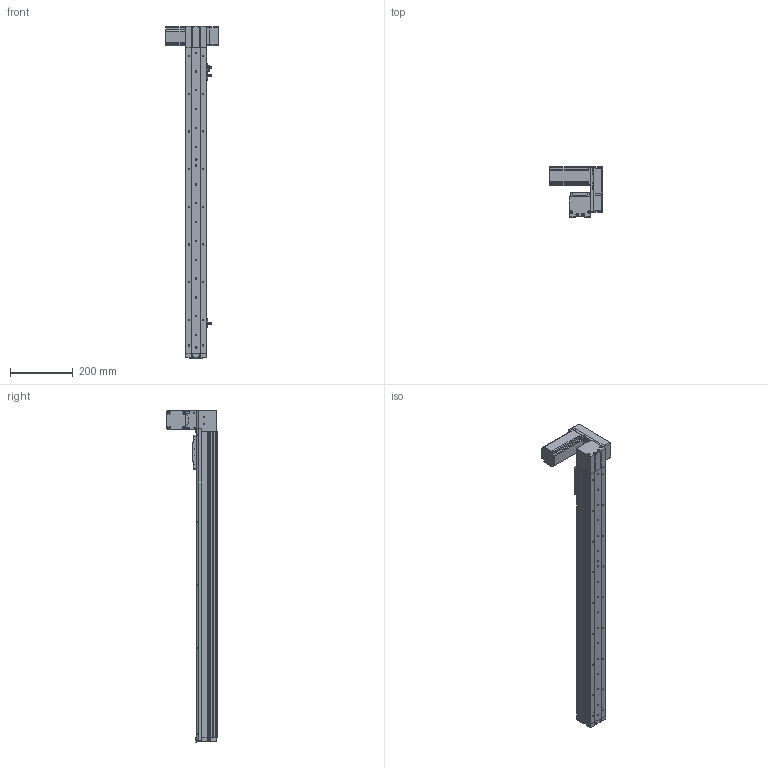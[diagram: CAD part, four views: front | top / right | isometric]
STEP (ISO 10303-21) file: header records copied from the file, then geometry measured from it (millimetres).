
FILE_DESCRIPTION (( 'STEP AP214' ), '1' );
FILE_NAME ('KSD68BS-S800-MLU-CR.STEP', '2019-08-27T08:11:31', ( '微软用户' ), ( '微软中国' ), 'SwSTEP 2.0', 'SolidWorks 2014', '' );
FILE_SCHEMA (( 'AUTOMOTIVE_DESIGN' ));
Length unit declared in the file: millimetre
Products named in the file (14): U倰嫖萇EEㄜSX672; 台达ECMA－C20604AS伺服电机（400W); KSD68BS 800行程盖板全封闭; KSD68BS 800行程底板全封闭; KSD68BS-S800-MLU-CR; 68宽单导轨全封闭丝杆传动安装板1防护罩; 68遵裔啣揤啣1; KSD68BS 800行程侧板全封闭; 68宽单导轨全封闭同步带端板; 68单导轨全封闭同步带电机座左; 68单导轨全封闭同步带安装板; 悵誘欶奻狟殏; 68宽马达安装板连板上折同步带; 感应片68宽全封闭
Assembly tree (17 placements, depth 2):
  KSD68BS-S800-MLU-CR
    KSD68BS 800行程底板全封闭
    台达ECMA－C20604AS伺服电机（400W)
    U倰嫖萇EEㄜSX672  x3
    感应片68宽全封闭
    68宽马达安装板连板上折同步带
    悵誘欶奻狟殏
    68单导轨全封闭同步带安装板
    68单导轨全封闭同步带电机座左
    68宽单导轨全封闭同步带端板
    KSD68BS 800行程侧板全封闭  x2
    68宽单导轨全封闭丝杆传动安装板1防护罩
    68遵裔啣揤啣1  x2
    KSD68BS 800行程盖板全封闭
Bounding box: 167.2 x 159.5 x 1058.1 mm (x, y, z)
Volume: 2266912.7 mm3; surface area: 844892.6 mm2
Topology: 18 solids, 18 shells, 1471 faces, 4177 edges, 2676 vertices
Faces by surface type: cylinder 690, plane 625, cone 156
Entity records: 46547 total; most frequent: CARTESIAN_POINT 7973, DIRECTION 6986, ORIENTED_EDGE 6690, EDGE_CURVE 3345, AXIS2_PLACEMENT_3D 2513, VERTEX_POINT 2194, VECTOR 1960, LINE 1960
